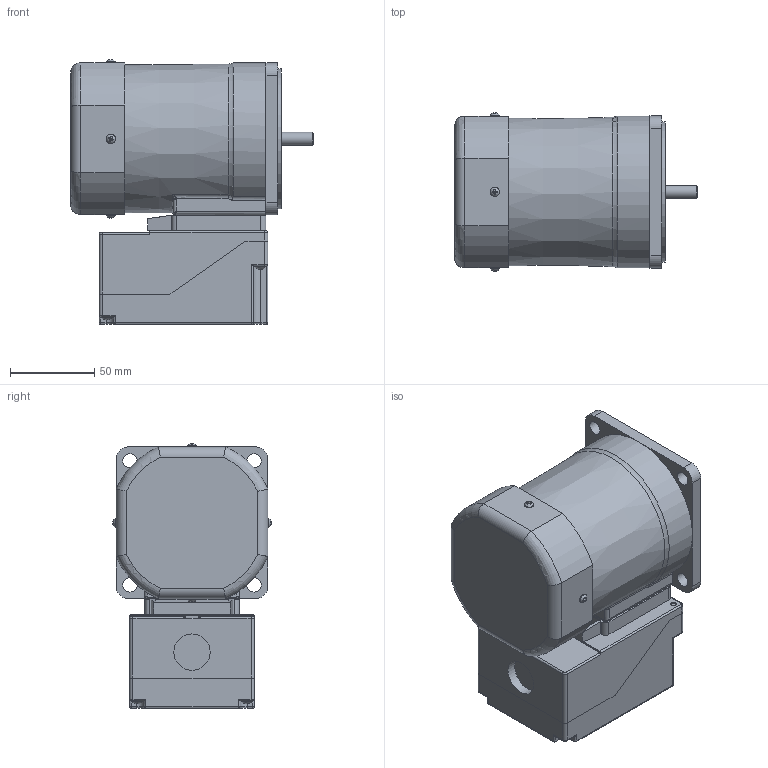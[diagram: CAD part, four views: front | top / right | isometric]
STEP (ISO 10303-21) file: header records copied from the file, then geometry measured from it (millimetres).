
FILE_DESCRIPTION(/* description */ (''),/* implementation_level */ '2;1');
FILE_NAME(/* name */ 'E:\도면작업\2016\0704) 미주향 SG 도면\3D MOTOR\TERMINAL BOX TYPE\INDUCTION TERMINAL BOX\SG9I60G_-T2.stp',/* time_stamp */ '2017-01-23T18:56:47+09:00',/* author */ ('jy-jung'),/* organization */ (''),/* preprocessor_version */ 'ST-DEVELOPER v15.6',/* originating_system */ 'Autodesk Inventor 2015',/* authorisation */ '');
FILE_SCHEMA (('AUTOMOTIVE_DESIGN { 1 0 10303 214 3 1 1 }'));
Length unit declared in the file: millimetre
Products named in the file (1): 부품1
Bounding box: 143.9 x 93.89 x 156.95 mm (x, y, z)
Volume: 932630.3 mm3; surface area: 137925.8 mm2
Topology: 1 solids, 9 shells, 944 faces, 2486 edges, 1586 vertices
Faces by surface type: plane 501, cylinder 310, bspline 55, torus 42, cone 24, sphere 12
Full cylindrical faces by diameter (mm): 2.5 x4, 3 x8, 3.2 x3, 3.4 x1, 3.5 x4, 4.2 x1, 4.5 x8, 5.5 x8, 5.6 x4, 6.9 x4, 7.62 x1, 8.5 x4, 21.5 x1, 40 x1, 83 x1
Entity records: 31460 total; most frequent: CARTESIAN_POINT 7704, ORIENTED_EDGE 4694, DIRECTION 4668, EDGE_CURVE 2347, AXIS2_PLACEMENT_3D 1646, VERTEX_POINT 1568, LINE 1376, VECTOR 1376
